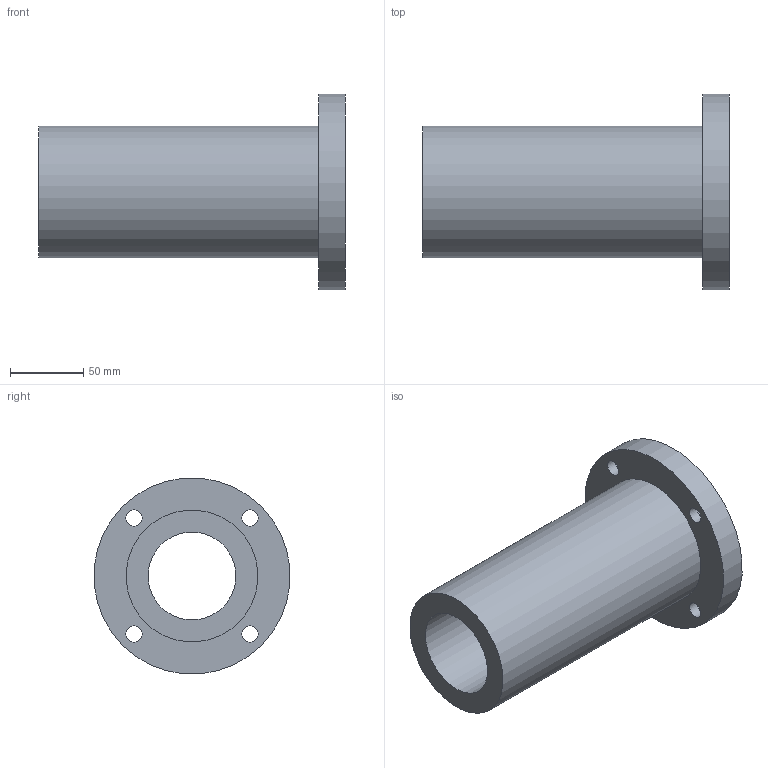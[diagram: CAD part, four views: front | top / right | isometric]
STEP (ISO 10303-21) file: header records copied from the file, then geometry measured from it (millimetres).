
FILE_DESCRIPTION(/* description */ (''),/* implementation_level */ '2;1');
FILE_NAME(/* name */ 'LMF60LUU',/* time_stamp */ '2019-07-03T10:03:24+02:00',/* author */ ('VĂ©gh MĂˇtĂ©'),/* organization */ ('Bearing Kft'),/* preprocessor_version */ 'ST-DEVELOPER v16.7',/* originating_system */ 'DEX',/* authorisation */ $);
FILE_SCHEMA (('AUTOMOTIVE_DESIGN {1 0 10303 214 3 1 1}'));
Length unit declared in the file: millimetre
Products named in the file (1): LMF60LUU
Bounding box: 209 x 133.49 x 133.49 mm (x, y, z)
Volume: 865274.7 mm3; surface area: 126153.4 mm2
Topology: 1 solids, 1 shells, 321 faces, 798 edges, 532 vertices
Faces by surface type: plane 248, bspline 61, cylinder 12
Full cylindrical faces by diameter (mm): 11 x4, 17 x4, 60 x1, 90 x1, 134 x1
Entity records: 13145 total; most frequent: CARTESIAN_POINT 5878, ORIENTED_EDGE 1566, DIRECTION 1207, EDGE_CURVE 783, LINE 637, VECTOR 637, VERTEX_POINT 532, EDGE_LOOP 399
